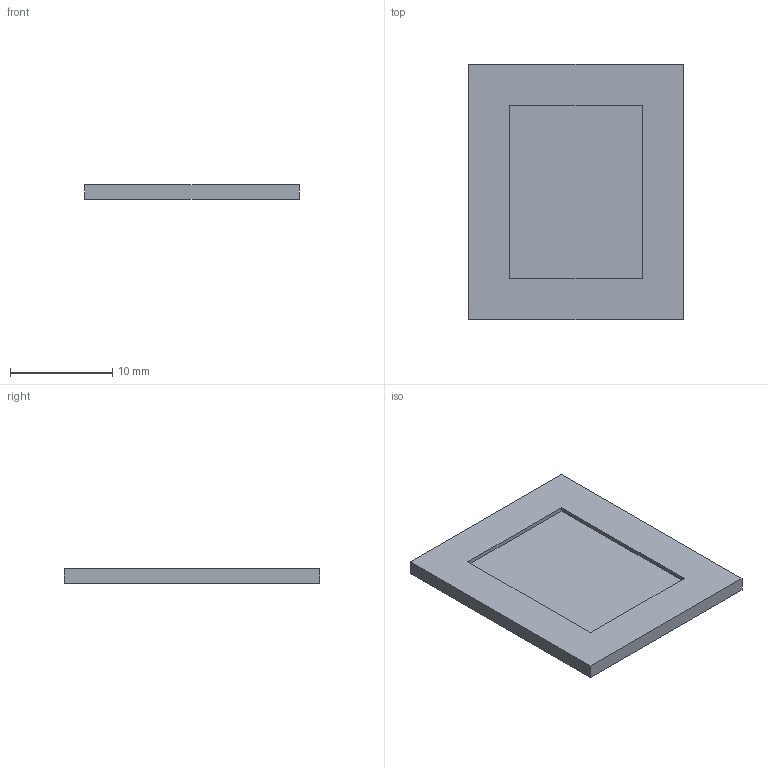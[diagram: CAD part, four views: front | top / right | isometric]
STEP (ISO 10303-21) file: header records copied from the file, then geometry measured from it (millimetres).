
FILE_DESCRIPTION(('FreeCAD Model'),'2;1');
FILE_NAME('Open CASCADE Shape Model','2025-06-08T18:09:25',(''),(''), 'Open CASCADE STEP processor 7.6','FreeCAD','Unknown');
FILE_SCHEMA(('CONFIG_CONTROL_DESIGN','SHAPE_APPEARANCE_LAYER_MIM'));
Length unit declared in the file: millimetre
Products named in the file (1): SmallCCDPCB
Bounding box: 21 x 25 x 1.4 mm (x, y, z)
Volume: 646.6 mm3; surface area: 1202.8 mm2
Topology: 1 solids, 1 shells, 11 faces, 24 edges, 16 vertices
Faces by surface type: plane 11
Entity records: 350 total; most frequent: CARTESIAN_POINT 52, DIRECTION 48, ORIENTED_EDGE 48, EDGE_CURVE 24, LINE 24, VECTOR 24, VERTEX_POINT 16, AXIS2_PLACEMENT_3D 12
